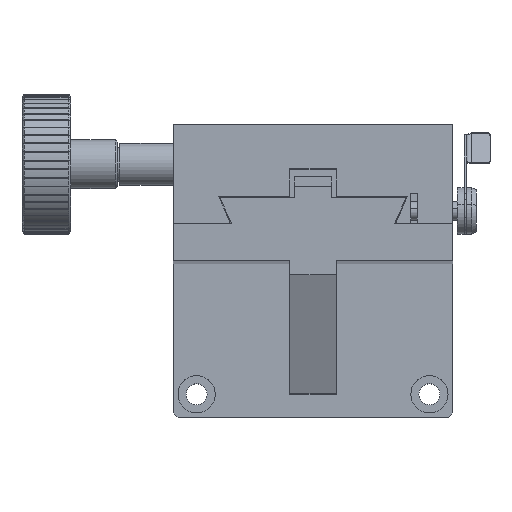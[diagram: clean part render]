
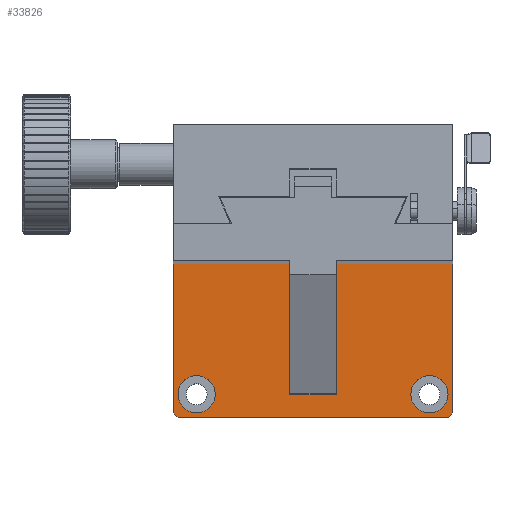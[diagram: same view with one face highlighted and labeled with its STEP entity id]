
A CAD part, top view. The second image highlights one B-rep face of the part: STEP entity #33826.
In plain terms, the highlighted planar face has unit normal (0, 0, 1).
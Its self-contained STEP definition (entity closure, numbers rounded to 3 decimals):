
#69 = LINE ( 'NONE', #20151, #20009 ) ;
#598 = LINE ( 'NONE', #30466, #34332 ) ;
#698 = DIRECTION ( 'NONE',  ( 0.707, -0.707, 0. ) ) ;
#905 = DIRECTION ( 'NONE',  ( 1., 0., 0. ) ) ;
#1017 = CARTESIAN_POINT ( 'NONE',  ( -25., -28., 0. ) ) ;
#1023 = CARTESIAN_POINT ( 'NONE',  ( -29., -28., 0. ) ) ;
#1153 = CARTESIAN_POINT ( 'NONE',  ( -29., -33., 0. ) ) ;
#1813 = LINE ( 'NONE', #9766, #22203 ) ;
#2191 = AXIS2_PLACEMENT_3D ( 'NONE', #19693, #6436, #11701 ) ;
#2205 = EDGE_LOOP ( 'NONE', ( #30979, #13117 ) ) ;
#2215 = VERTEX_POINT ( 'NONE', #25445 ) ;
#2456 = CIRCLE ( 'NONE', #14723, 4. ) ;
#3194 = VECTOR ( 'NONE', #18851, 1000. ) ;
#3827 = DIRECTION ( 'NONE',  ( 1., 0., 0. ) ) ;
#5334 = DIRECTION ( 'NONE',  ( 0., 1., 0. ) ) ;
#5396 = CARTESIAN_POINT ( 'NONE',  ( -30., 0., 0. ) ) ;
#5779 = DIRECTION ( 'NONE',  ( 0., 0., -1. ) ) ;
#5994 = CARTESIAN_POINT ( 'NONE',  ( 25., -28., 0. ) ) ;
#6053 = VECTOR ( 'NONE', #12011, 1000. ) ;
#6212 = EDGE_CURVE ( 'NONE', #2215, #21951, #15673, .T. ) ;
#6292 = EDGE_CURVE ( 'NONE', #29453, #8514, #26485, .T. ) ;
#6436 = DIRECTION ( 'NONE',  ( 0., 0., -1. ) ) ;
#7383 = ORIENTED_EDGE ( 'NONE', *, *, #11707, .T. ) ;
#7863 = EDGE_CURVE ( 'NONE', #20609, #31232, #14692, .T. ) ;
#8079 = CARTESIAN_POINT ( 'NONE',  ( 5., 0., 0. ) ) ;
#8258 = EDGE_CURVE ( 'NONE', #20609, #13778, #69, .T. ) ;
#8259 = CARTESIAN_POINT ( 'NONE',  ( -5., 0., 0. ) ) ;
#8334 = VECTOR ( 'NONE', #26380, 1000. ) ;
#8514 = VERTEX_POINT ( 'NONE', #1023 ) ;
#8637 = CIRCLE ( 'NONE', #2191, 4. ) ;
#9082 = CARTESIAN_POINT ( 'NONE',  ( 30., 0., 0. ) ) ;
#9214 = ORIENTED_EDGE ( 'NONE', *, *, #26952, .T. ) ;
#9487 = VERTEX_POINT ( 'NONE', #8259 ) ;
#9766 = CARTESIAN_POINT ( 'NONE',  ( -5., 0., 0. ) ) ;
#10265 = DIRECTION ( 'NONE',  ( -1., 0., 0. ) ) ;
#10475 = CARTESIAN_POINT ( 'NONE',  ( -30., -32., 0. ) ) ;
#10612 = DIRECTION ( 'NONE',  ( 0., 0., 1. ) ) ;
#11701 = DIRECTION ( 'NONE',  ( 1., 0., 0. ) ) ;
#11707 = EDGE_CURVE ( 'NONE', #27390, #31232, #21215, .T. ) ;
#11778 = ORIENTED_EDGE ( 'NONE', *, *, #6212, .T. ) ;
#11878 = CARTESIAN_POINT ( 'NONE',  ( 21., -28., 0. ) ) ;
#12011 = DIRECTION ( 'NONE',  ( 0., -1., 0. ) ) ;
#12286 = CARTESIAN_POINT ( 'NONE',  ( -21., -28., 0. ) ) ;
#12433 = AXIS2_PLACEMENT_3D ( 'NONE', #1017, #17187, #905 ) ;
#12726 = EDGE_CURVE ( 'NONE', #18853, #21947, #8637, .T. ) ;
#13029 = CARTESIAN_POINT ( 'NONE',  ( 30., -32., 0. ) ) ;
#13117 = ORIENTED_EDGE ( 'NONE', *, *, #12726, .T. ) ;
#13353 = VECTOR ( 'NONE', #10265, 1000. ) ;
#13778 = VERTEX_POINT ( 'NONE', #33103 ) ;
#14692 = LINE ( 'NONE', #8079, #25515 ) ;
#14723 = AXIS2_PLACEMENT_3D ( 'NONE', #5994, #5779, #26884 ) ;
#15673 = LINE ( 'NONE', #22592, #6053 ) ;
#16796 = ORIENTED_EDGE ( 'NONE', *, *, #31849, .T. ) ;
#16873 = EDGE_CURVE ( 'NONE', #8514, #29453, #31456, .T. ) ;
#16918 = VERTEX_POINT ( 'NONE', #20549 ) ;
#17100 = DIRECTION ( 'NONE',  ( 0., 0., -1. ) ) ;
#17187 = DIRECTION ( 'NONE',  ( 0., 0., -1. ) ) ;
#17201 = CARTESIAN_POINT ( 'NONE',  ( -25., -28., 0. ) ) ;
#17491 = LINE ( 'NONE', #23830, #8334 ) ;
#18034 = DIRECTION ( 'NONE',  ( 0., 1., 0. ) ) ;
#18187 = EDGE_CURVE ( 'NONE', #16918, #24917, #17491, .T. ) ;
#18280 = CARTESIAN_POINT ( 'NONE',  ( 5., -28., 0. ) ) ;
#18419 = VECTOR ( 'NONE', #698, 1000. ) ;
#18509 = CARTESIAN_POINT ( 'NONE',  ( 0., 0., 0. ) ) ;
#18851 = DIRECTION ( 'NONE',  ( 0., 1., 0. ) ) ;
#18853 = VERTEX_POINT ( 'NONE', #11878 ) ;
#18935 = ORIENTED_EDGE ( 'NONE', *, *, #16873, .T. ) ;
#19439 = PLANE ( 'NONE',  #22484 ) ;
#19547 = VECTOR ( 'NONE', #29132, 1000. ) ;
#19691 = AXIS2_PLACEMENT_3D ( 'NONE', #17201, #17100, #3827 ) ;
#19693 = CARTESIAN_POINT ( 'NONE',  ( 25., -28., 0. ) ) ;
#19926 = DIRECTION ( 'NONE',  ( 1., 0., 0. ) ) ;
#20009 = VECTOR ( 'NONE', #22982, 1000. ) ;
#20151 = CARTESIAN_POINT ( 'NONE',  ( 0., -28., 0. ) ) ;
#20549 = CARTESIAN_POINT ( 'NONE',  ( 29., -33., 0. ) ) ;
#20609 = VERTEX_POINT ( 'NONE', #18280 ) ;
#20709 = ORIENTED_EDGE ( 'NONE', *, *, #8258, .T. ) ;
#20877 = FACE_BOUND ( 'NONE', #33508, .T. ) ;
#21165 = EDGE_CURVE ( 'NONE', #9487, #2215, #28342, .T. ) ;
#21176 = DIRECTION ( 'NONE',  ( 1., 0., 0. ) ) ;
#21215 = LINE ( 'NONE', #5396, #13353 ) ;
#21712 = FACE_OUTER_BOUND ( 'NONE', #30633, .T. ) ;
#21947 = VERTEX_POINT ( 'NONE', #30559 ) ;
#21951 = VERTEX_POINT ( 'NONE', #33108 ) ;
#22203 = VECTOR ( 'NONE', #18034, 1000. ) ;
#22484 = AXIS2_PLACEMENT_3D ( 'NONE', #18509, #10612, #21176 ) ;
#22565 = FACE_BOUND ( 'NONE', #2205, .T. ) ;
#22592 = CARTESIAN_POINT ( 'NONE',  ( -30., 0., 0. ) ) ;
#22771 = LINE ( 'NONE', #31978, #3194 ) ;
#22932 = ORIENTED_EDGE ( 'NONE', *, *, #7863, .F. ) ;
#22982 = DIRECTION ( 'NONE',  ( -1., 0., 0. ) ) ;
#23065 = ORIENTED_EDGE ( 'NONE', *, *, #21165, .T. ) ;
#23830 = CARTESIAN_POINT ( 'NONE',  ( 29., -33., 0. ) ) ;
#24917 = VERTEX_POINT ( 'NONE', #13029 ) ;
#25445 = CARTESIAN_POINT ( 'NONE',  ( -30., 0., 0. ) ) ;
#25515 = VECTOR ( 'NONE', #5334, 1000. ) ;
#26380 = DIRECTION ( 'NONE',  ( 0.707, 0.707, 0. ) ) ;
#26485 = CIRCLE ( 'NONE', #12433, 4. ) ;
#26884 = DIRECTION ( 'NONE',  ( 1., 0., 0. ) ) ;
#26905 = CARTESIAN_POINT ( 'NONE',  ( 0., 0., 0. ) ) ;
#26952 = EDGE_CURVE ( 'NONE', #28981, #16918, #598, .T. ) ;
#27268 = ORIENTED_EDGE ( 'NONE', *, *, #6292, .T. ) ;
#27390 = VERTEX_POINT ( 'NONE', #9082 ) ;
#27412 = EDGE_CURVE ( 'NONE', #13778, #9487, #1813, .T. ) ;
#27589 = EDGE_CURVE ( 'NONE', #21951, #28981, #29305, .T. ) ;
#28226 = ORIENTED_EDGE ( 'NONE', *, *, #18187, .T. ) ;
#28342 = LINE ( 'NONE', #26905, #19547 ) ;
#28981 = VERTEX_POINT ( 'NONE', #1153 ) ;
#29132 = DIRECTION ( 'NONE',  ( -1., 0., 0. ) ) ;
#29305 = LINE ( 'NONE', #10475, #18419 ) ;
#29453 = VERTEX_POINT ( 'NONE', #12286 ) ;
#29461 = ORIENTED_EDGE ( 'NONE', *, *, #27412, .T. ) ;
#30466 = CARTESIAN_POINT ( 'NONE',  ( 0., -33., 0. ) ) ;
#30559 = CARTESIAN_POINT ( 'NONE',  ( 29., -28., 0. ) ) ;
#30633 = EDGE_LOOP ( 'NONE', ( #29461, #23065, #11778, #30833, #9214, #28226, #16796, #7383, #22932, #20709 ) ) ;
#30833 = ORIENTED_EDGE ( 'NONE', *, *, #27589, .T. ) ;
#30979 = ORIENTED_EDGE ( 'NONE', *, *, #31339, .T. ) ;
#31232 = VERTEX_POINT ( 'NONE', #33979 ) ;
#31339 = EDGE_CURVE ( 'NONE', #21947, #18853, #2456, .T. ) ;
#31456 = CIRCLE ( 'NONE', #19691, 4. ) ;
#31849 = EDGE_CURVE ( 'NONE', #24917, #27390, #22771, .T. ) ;
#31978 = CARTESIAN_POINT ( 'NONE',  ( 30., 0., 0. ) ) ;
#33103 = CARTESIAN_POINT ( 'NONE',  ( -5., -28., 0. ) ) ;
#33108 = CARTESIAN_POINT ( 'NONE',  ( -30., -32., 0. ) ) ;
#33508 = EDGE_LOOP ( 'NONE', ( #27268, #18935 ) ) ;
#33826 = ADVANCED_FACE ( 'NONE', ( #21712, #22565, #20877 ), #19439, .T. ) ;
#33979 = CARTESIAN_POINT ( 'NONE',  ( 5., 0., 0. ) ) ;
#34332 = VECTOR ( 'NONE', #19926, 1000. ) ;
